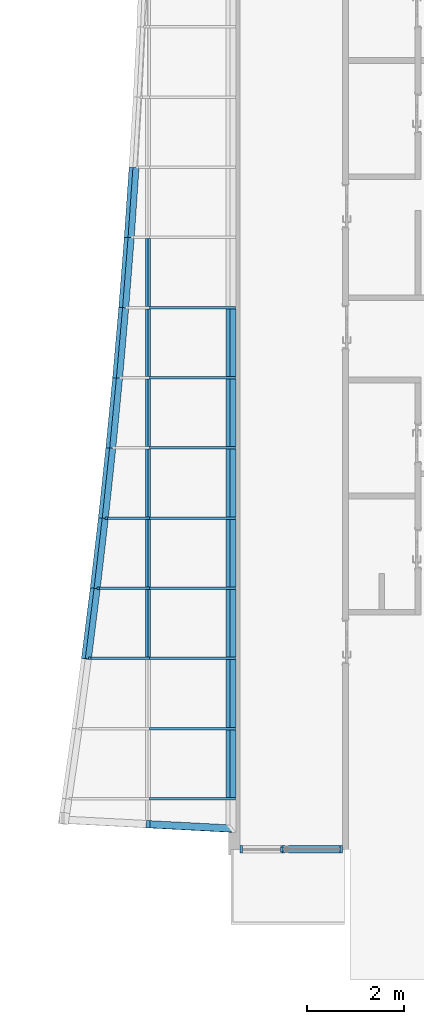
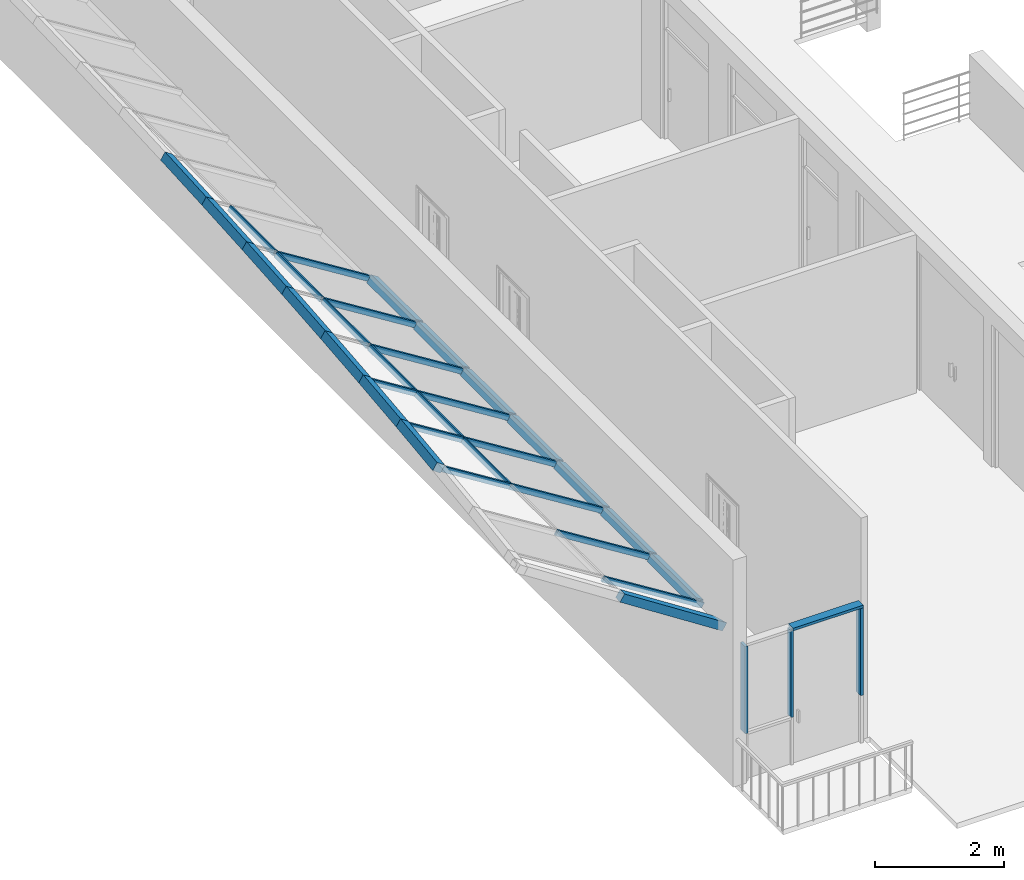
# One storey, part 2 of 33: 36 members, 2 elements without a shape of their own.
"""IFC2X3 building model written with IfcOpenShell, lengths in millimetres."""

from ifc_helpers import new_model, entity, si_unit, converted_unit, derived_unit, direction, frame, frame_2d, origin, origin_2d_with_axis, place, context, subcontext, project, spatial, polyline, rectangle, extrude, clip, halfspace, bounded_halfspace, source, transform, mapped, material, type_object, type_shapes, element, aggregate, save


model = new_model("IFC2X3")

# Units and contexts
model_context = context("Model", 3, precision=0.01, world=origin(), true_north=direction((6.12303176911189e-17, 1.0)))
body_context = subcontext(model_context, "Body", "Model", "MODEL_VIEW")
ifc_project = project(units=[si_unit("LENGTHUNIT", "METRE", prefix="MILLI"), si_unit("AREAUNIT", "SQUARE_METRE"), si_unit("VOLUMEUNIT", "CUBIC_METRE"), converted_unit("PLANEANGLEUNIT", "DEGREE", entity("IfcRatioMeasure", 0.0174532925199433), si_unit("PLANEANGLEUNIT", "RADIAN"), dimensions=[0, 0, 0, 0, 0, 0, 0]), si_unit("MASSUNIT", "GRAM", prefix="KILO"), derived_unit("MASSDENSITYUNIT", [(si_unit("MASSUNIT", "GRAM", prefix="KILO"), 1), (si_unit("LENGTHUNIT", "METRE"), -3)]), si_unit("TIMEUNIT", "SECOND"), si_unit("FREQUENCYUNIT", "HERTZ"), si_unit("THERMODYNAMICTEMPERATUREUNIT", "DEGREE_CELSIUS"), derived_unit("THERMALTRANSMITTANCEUNIT", [(si_unit("MASSUNIT", "GRAM", prefix="KILO"), 1), (si_unit("THERMODYNAMICTEMPERATUREUNIT", "KELVIN"), -1), (si_unit("TIMEUNIT", "SECOND"), -3)]), derived_unit("VOLUMETRICFLOWRATEUNIT", [(si_unit("LENGTHUNIT", "METRE"), 3), (si_unit("TIMEUNIT", "SECOND"), -1)]), si_unit("ELECTRICCURRENTUNIT", "AMPERE"), si_unit("ELECTRICVOLTAGEUNIT", "VOLT"), si_unit("POWERUNIT", "WATT"), si_unit("FORCEUNIT", "NEWTON", prefix="KILO"), si_unit("ILLUMINANCEUNIT", "LUX"), si_unit("LUMINOUSFLUXUNIT", "LUMEN"), si_unit("LUMINOUSINTENSITYUNIT", "CANDELA"), derived_unit("USERDEFINED", [(si_unit("MASSUNIT", "GRAM", prefix="KILO"), -1), (si_unit("LENGTHUNIT", "METRE"), -2), (si_unit("TIMEUNIT", "SECOND"), 3), (si_unit("LUMINOUSFLUXUNIT", "LUMEN"), 1)]), derived_unit("LINEARVELOCITYUNIT", [(si_unit("LENGTHUNIT", "METRE"), 1), (si_unit("TIMEUNIT", "SECOND"), -1)]), si_unit("PRESSUREUNIT", "PASCAL"), derived_unit("USERDEFINED", [(si_unit("LENGTHUNIT", "METRE"), -2), (si_unit("MASSUNIT", "GRAM", prefix="KILO"), 1), (si_unit("TIMEUNIT", "SECOND"), -2)])], contexts=[model_context])

# Site, building, storey
site_placement = place(None, origin())
site = spatial("IfcSite", under=ifc_project, at=site_placement, Name="表面", CompositionType="ELEMENT")
building_placement = place(site_placement, origin())
building = spatial("IfcBuilding", under=site, at=building_placement, CompositionType="ELEMENT")
storey_placement = place(building_placement, frame((0.0, 0.0, 6000.0)))
storey = spatial("IfcBuildingStorey", under=building, at=storey_placement, Name="3F", CompositionType="ELEMENT", Elevation=6000.00000000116)

# Curtain wall, members
curtain_wall_type_1 = type_object("IfcCurtainWallType", Name="幕墙系统:1450 x 2100mm", PredefinedType="NOTDEFINED")
curtain_wall_1_placement = place(storey_placement, frame((0.0, 0.0, -6000.0)))
curtain_wall_1 = element("IfcCurtainWall", 1, at=curtain_wall_1_placement, inside=storey, type_object=curtain_wall_type_1, Name="幕墙系统:1450 x 2100mm", ObjectType="幕墙系统:1450 x 2100mm")
ifc_material_1 = material(Name="金属 - 铝")
member_type_1 = type_object("IfcMemberType", Name="50 x 100mm", PredefinedType="MEMBER")
shared_shape_1 = source(origin(), body_context, "Body", "SweptSolid", [
    extrude(rectangle(XDim=100.0, YDim=50.0, at=origin_2d_with_axis()), frame((0.0, 0.0, -1400.0), z_axis=(0.0, 0.0, 1.0), x_axis=(0.0, -1.0, 0.0)), (0.0, 0.0, 1.0), 1400.0),
])
type_shapes(member_type_1, [shared_shape_1])
placement = place(building_placement, frame((0.0, 0.0, 9000.0)))
member_1_placement = place(placement, frame((-16211.1509145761, -16795.8979069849, 826.048296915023), z_axis=(0.0, 1.0, 0.0), x_axis=(-0.848048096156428, 0.0, 0.529919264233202)))
member_1 = element("IfcMember", 2, at=member_1_placement, type_object=member_type_1, material=ifc_material_1, Name="矩形竖梃:50 x 100mm", ObjectType="50 x 100mm", context=body_context, shape_type="MappedRepresentation", body=[
    mapped(shared_shape_1, transform((0.0, 0.0, 0.0), scale=1.0)),
])
member_2_placement = place(placement, frame((-16211.1509145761, -18245.8979069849, 826.048296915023), z_axis=(0.0, 1.0, 0.0), x_axis=(-0.848048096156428, 0.0, 0.529919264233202)))
member_2 = element("IfcMember", 3, at=member_2_placement, type_object=member_type_1, material=ifc_material_1, Name="矩形竖梃:50 x 100mm", ObjectType="50 x 100mm", context=body_context, shape_type="MappedRepresentation", body=[
    mapped(shared_shape_1, transform((0.0, 0.0, 0.0), scale=1.0)),
])
member_3_placement = place(placement, frame((-16211.1509145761, -19695.8979069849, 826.048296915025), z_axis=(0.0, 1.0, 0.0), x_axis=(-0.848048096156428, 0.0, 0.529919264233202)))
member_3 = element("IfcMember", 4, at=member_3_placement, type_object=member_type_1, material=ifc_material_1, Name="矩形竖梃:50 x 100mm", ObjectType="50 x 100mm", context=body_context, shape_type="MappedRepresentation", body=[
    mapped(shared_shape_1, transform((0.0, 0.0, 0.0), scale=1.0)),
])
member_4_placement = place(placement, frame((-16211.1509145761, -21145.8979069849, 826.048296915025), z_axis=(0.0, 1.0, 0.0), x_axis=(-0.848048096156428, 0.0, 0.529919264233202)))
member_4 = element("IfcMember", 5, at=member_4_placement, type_object=member_type_1, material=ifc_material_1, Name="矩形竖梃:50 x 100mm", ObjectType="50 x 100mm", context=body_context, shape_type="MappedRepresentation", body=[
    mapped(shared_shape_1, transform((0.0, 0.0, 0.0), scale=1.0)),
])
member_5_placement = place(placement, frame((-16211.1509145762, -22595.8979069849, 826.048296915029), z_axis=(0.0, 1.0, 0.0), x_axis=(-0.848048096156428, 0.0, 0.529919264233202)))
member_5 = element("IfcMember", 6, at=member_5_placement, type_object=member_type_1, material=ifc_material_1, Name="矩形竖梃:50 x 100mm", ObjectType="50 x 100mm", context=body_context, shape_type="MappedRepresentation", body=[
    mapped(shared_shape_1, transform((0.0, 0.0, 0.0), scale=1.0)),
])
member_6_placement = place(placement, frame((-16211.1509145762, -24045.8979069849, 826.048296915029), z_axis=(0.0, 1.0, 0.0), x_axis=(-0.848048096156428, 0.0, 0.529919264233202)))
member_6 = element("IfcMember", 7, at=member_6_placement, type_object=member_type_1, material=ifc_material_1, Name="矩形竖梃:50 x 100mm", ObjectType="50 x 100mm", context=body_context, shape_type="MappedRepresentation", body=[
    mapped(shared_shape_1, transform((0.0, 0.0, 0.0), scale=1.0)),
])
member_type_2 = type_object("IfcMemberType", Name="50 x 100mm", PredefinedType="MEMBER")
shared_shape_2 = source(origin(), body_context, "Body", "SweptSolid", [
    extrude(rectangle(XDim=100.0, YDim=50.0, at=origin_2d_with_axis()), frame((0.0, 0.0, -2100.0), z_axis=(0.0, 0.0, 1.0), x_axis=(0.0, -1.0, 0.0)), (0.0, 0.0, 1.0), 2100.0),
])
type_shapes(member_type_2, [shared_shape_2])
member_7_placement = place(storey_placement, frame((-16211.1509145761, -18220.8979069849, 3826.04829691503), z_axis=(-0.848048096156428, 0.0, 0.529919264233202), x_axis=(0.0, -1.0, 0.0)))
member_7 = element("IfcMember", 8, at=member_7_placement, type_object=member_type_2, material=ifc_material_1, Name="矩形竖梃:50 x 100mm", ObjectType="50 x 100mm", context=body_context, shape_type="MappedRepresentation", body=[
    mapped(shared_shape_2, transform((0.0, 0.0, 0.0), scale=1.0)),
])
member_8_placement = place(storey_placement, frame((-16211.1509145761, -19670.8979069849, 3826.04829691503), z_axis=(-0.848048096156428, 0.0, 0.529919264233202), x_axis=(0.0, -1.0, 0.0)))
member_8 = element("IfcMember", 9, at=member_8_placement, type_object=member_type_2, material=ifc_material_1, Name="矩形竖梃:50 x 100mm", ObjectType="50 x 100mm", context=body_context, shape_type="MappedRepresentation", body=[
    mapped(shared_shape_2, transform((0.0, 0.0, 0.0), scale=1.0)),
])
member_9_placement = place(storey_placement, frame((-16211.1509145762, -21120.8979069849, 3826.04829691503), z_axis=(-0.848048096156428, 0.0, 0.529919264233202), x_axis=(0.0, -1.0, 0.0)))
member_9 = element("IfcMember", 10, at=member_9_placement, type_object=member_type_2, material=ifc_material_1, Name="矩形竖梃:50 x 100mm", ObjectType="50 x 100mm", context=body_context, shape_type="MappedRepresentation", body=[
    mapped(shared_shape_2, transform((0.0, 0.0, 0.0), scale=1.0)),
])
member_10_placement = place(storey_placement, frame((-16211.1509145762, -22570.8979069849, 3826.04829691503), z_axis=(-0.848048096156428, 0.0, 0.529919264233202), x_axis=(0.0, -1.0, 0.0)))
member_10 = element("IfcMember", 11, at=member_10_placement, type_object=member_type_2, material=ifc_material_1, Name="矩形竖梃:50 x 100mm", ObjectType="50 x 100mm", context=body_context, shape_type="MappedRepresentation", body=[
    mapped(shared_shape_2, transform((0.0, 0.0, 0.0), scale=1.0)),
])
member_11_placement = place(storey_placement, frame((-16211.1509145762, -24020.8979069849, 3826.04829691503), z_axis=(-0.848048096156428, 0.0, 0.529919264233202), x_axis=(0.0, -1.0, 0.0)))
member_11 = element("IfcMember", 12, at=member_11_placement, type_object=member_type_2, material=ifc_material_1, Name="矩形竖梃:50 x 100mm", ObjectType="50 x 100mm", context=body_context, shape_type="MappedRepresentation", body=[
    mapped(shared_shape_2, transform((0.0, 0.0, 0.0), scale=1.0)),
])
member_12_placement = place(storey_placement, frame((-16211.1509145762, -25470.8979069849, 3826.04829691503), z_axis=(-0.848048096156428, 0.0, 0.529919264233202), x_axis=(0.0, -1.0, 0.0)))
member_12 = element("IfcMember", 13, at=member_12_placement, type_object=member_type_2, material=ifc_material_1, Name="矩形竖梃:50 x 100mm", ObjectType="50 x 100mm", context=body_context, shape_type="MappedRepresentation", body=[
    mapped(shared_shape_2, transform((0.0, 0.0, 0.0), scale=1.0)),
])
member_13_placement = place(storey_placement, frame((-16211.1509145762, -26920.8979069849, 3826.04829691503), z_axis=(-0.848048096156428, 0.0, 0.529919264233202), x_axis=(0.0, -1.0, 0.0)))
member_13 = element("IfcMember", 14, at=member_13_placement, type_object=member_type_2, material=ifc_material_1, Name="矩形竖梃:50 x 100mm", ObjectType="50 x 100mm", context=body_context, shape_type="MappedRepresentation", body=[
    mapped(shared_shape_2, transform((0.0, 0.0, 0.0), scale=1.0)),
])
member_14_placement = place(storey_placement, frame((-16211.1509145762, -28370.8979069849, 3826.04829691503), z_axis=(-0.848048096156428, 0.0, 0.529919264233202), x_axis=(0.0, -1.0, 0.0)))
member_14 = element("IfcMember", 15, at=member_14_placement, type_object=member_type_2, material=ifc_material_1, Name="矩形竖梃:50 x 100mm", ObjectType="50 x 100mm", context=body_context, shape_type="MappedRepresentation", body=[
    mapped(shared_shape_2, transform((0.0, 0.0, 0.0), scale=1.0)),
])
ifc_material_2 = material(Name="木质 - 木材")
member_type_3 = type_object("IfcMemberType", Name="200 x 150mm", PredefinedType="MEMBER")
shared_shape_3 = source(origin(), body_context, "Body", "SweptSolid", [
    extrude(rectangle(XDim=150.0, YDim=150.0, at=origin_2d_with_axis()), frame((-75.0, 0.0, -1400.0), z_axis=(0.0, 0.0, 1.0), x_axis=(0.0, -1.0, 0.0)), (0.0, 0.0, 1.0), 1400.0),
])
type_shapes(member_type_3, [shared_shape_3])
member_15_placement = place(storey_placement, frame((-14430.2499126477, -19645.8979069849, 2713.21784202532), z_axis=(0.0, -1.0, 0.0), x_axis=(0.848048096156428, 0.0, -0.529919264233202)))
member_15 = element("IfcMember", 16, at=member_15_placement, type_object=member_type_3, material=ifc_material_2, Name="矩形竖梃:200 x 150mm", ObjectType="200 x 150mm", context=body_context, shape_type="MappedRepresentation", body=[
    mapped(shared_shape_3, transform((0.0, 0.0, 0.0), scale=1.0)),
])
member_16_placement = place(storey_placement, frame((-14430.2499126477, -21095.8979069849, 2713.21784202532), z_axis=(0.0, -1.0, 0.0), x_axis=(0.848048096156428, 0.0, -0.529919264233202)))
member_16 = element("IfcMember", 17, at=member_16_placement, type_object=member_type_3, material=ifc_material_2, Name="矩形竖梃:200 x 150mm", ObjectType="200 x 150mm", context=body_context, shape_type="MappedRepresentation", body=[
    mapped(shared_shape_3, transform((0.0, 0.0, 0.0), scale=1.0)),
])
member_17_placement = place(storey_placement, frame((-14430.2499126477, -22545.8979069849, 2713.21784202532), z_axis=(0.0, -1.0, 0.0), x_axis=(0.848048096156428, 0.0, -0.529919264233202)))
member_17 = element("IfcMember", 18, at=member_17_placement, type_object=member_type_3, material=ifc_material_2, Name="矩形竖梃:200 x 150mm", ObjectType="200 x 150mm", context=body_context, shape_type="MappedRepresentation", body=[
    mapped(shared_shape_3, transform((0.0, 0.0, 0.0), scale=1.0)),
])
member_18_placement = place(storey_placement, frame((-14430.2499126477, -23995.8979069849, 2713.21784202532), z_axis=(0.0, -1.0, 0.0), x_axis=(0.848048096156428, 0.0, -0.529919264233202)))
member_18 = element("IfcMember", 19, at=member_18_placement, type_object=member_type_3, material=ifc_material_2, Name="矩形竖梃:200 x 150mm", ObjectType="200 x 150mm", context=body_context, shape_type="MappedRepresentation", body=[
    mapped(shared_shape_3, transform((0.0, 0.0, 0.0), scale=1.0)),
])
member_19_placement = place(storey_placement, frame((-14430.2499126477, -25445.8979069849, 2713.21784202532), z_axis=(0.0, -1.0, 0.0), x_axis=(0.848048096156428, 0.0, -0.529919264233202)))
member_19 = element("IfcMember", 20, at=member_19_placement, type_object=member_type_3, material=ifc_material_2, Name="矩形竖梃:200 x 150mm", ObjectType="200 x 150mm", context=body_context, shape_type="MappedRepresentation", body=[
    mapped(shared_shape_3, transform((0.0, 0.0, 0.0), scale=1.0)),
])
member_20_placement = place(storey_placement, frame((-14430.2499126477, -26895.8979069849, 2713.21784202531), z_axis=(0.0, -1.0, 0.0), x_axis=(0.848048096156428, 0.0, -0.529919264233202)))
member_20 = element("IfcMember", 21, at=member_20_placement, type_object=member_type_3, material=ifc_material_2, Name="矩形竖梃:200 x 150mm", ObjectType="200 x 150mm", context=body_context, shape_type="MappedRepresentation", body=[
    mapped(shared_shape_3, transform((0.0, 0.0, 0.0), scale=1.0)),
])
member_21_placement = place(storey_placement, frame((-14430.2499126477, -28345.8979069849, 2713.21784202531), z_axis=(0.0, -1.0, 0.0), x_axis=(0.848048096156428, 0.0, -0.529919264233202)))
member_21 = element("IfcMember", 22, at=member_21_placement, type_object=member_type_3, material=ifc_material_2, Name="矩形竖梃:200 x 150mm", ObjectType="200 x 150mm", context=body_context, shape_type="MappedRepresentation", body=[
    mapped(shared_shape_3, transform((0.0, 0.0, 0.0), scale=1.0)),
])

curtain_wall_type_2 = type_object("IfcCurtainWallType", Name="幕墙:幕墙 2", PredefinedType="NOTDEFINED")
curtain_wall_2_placement = place(storey_placement, frame((0.0, 0.0, -6000.0)))
curtain_wall_2 = element("IfcCurtainWall", 23, at=curtain_wall_2_placement, inside=storey, type_object=curtain_wall_type_2, Name="幕墙:幕墙 2", ObjectType="幕墙:幕墙 2")
member_type_4 = type_object("IfcMemberType", Name="50 x 150mm", PredefinedType="MEMBER")
shared_shape_4 = source(origin(), body_context, "Body", "SweptSolid", [
    extrude(rectangle(XDim=150.0, YDim=50.0, at=origin_2d_with_axis()), frame((-25.0, 0.0, -1650.0), z_axis=(0.0, 0.0, 1.0), x_axis=(0.0, -1.0, 0.0)), (0.0, 0.0, 1.0), 1650.0),
])
type_shapes(member_type_4, [shared_shape_4])
member_22_placement = place(storey_placement, frame((-14310.2499126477, -29416.868426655, 2550.0), z_axis=(0.0, 0.0, 1.0), x_axis=(-1.0, 0.0, 0.0)))
member_22 = element("IfcMember", 24, at=member_22_placement, type_object=member_type_4, material=ifc_material_1, Name="矩形竖梃:50 x 150mm", ObjectType="50 x 150mm", context=body_context, shape_type="MappedRepresentation", body=[
    mapped(shared_shape_4, transform((0.0, 0.0, 0.0), scale=1.0)),
])
member_type_5 = type_object("IfcMemberType", Name="50 x 150mm", PredefinedType="MEMBER")
shared_shape_5 = source(origin(), body_context, "Body", "SweptSolid", [
    extrude(rectangle(XDim=150.0, YDim=50.0, at=origin_2d_with_axis()), frame((-25.0, 0.0, -1650.0), z_axis=(0.0, 0.0, 1.0), x_axis=(0.0, -1.0, 0.0)), (0.0, 0.0, 1.0), 1650.0),
])
type_shapes(member_type_5, [shared_shape_5])
member_23_placement = place(storey_placement, frame((-12190.2499126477, -29416.868426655, 900.0), z_axis=(0.0, 0.0, -1.0), x_axis=(1.0, 0.0, 0.0)))
member_23 = element("IfcMember", 25, at=member_23_placement, type_object=member_type_5, material=ifc_material_1, Name="矩形竖梃:50 x 150mm", ObjectType="50 x 150mm", context=body_context, shape_type="MappedRepresentation", body=[
    mapped(shared_shape_5, transform((0.0, 0.0, 0.0), scale=1.0)),
])
member_type_6 = type_object("IfcMemberType", Name="50 x 100mm", PredefinedType="MEMBER")
shared_shape_6 = source(origin(), body_context, "Body", "SweptSolid", [
    extrude(rectangle(XDim=100.0, YDim=50.0, at=origin_2d_with_axis()), frame((0.0, 0.0, -1650.0), z_axis=(0.0, 0.0, 1.0), x_axis=(0.0, -1.0, 0.0)), (0.0, 0.0, 1.0), 1650.0),
])
type_shapes(member_type_6, [shared_shape_6])
member_24_placement = place(storey_placement, frame((-13450.2499126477, -29416.868426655, 900.0), z_axis=(0.0, 0.0, -1.0), x_axis=(1.0, 0.0, 0.0)))
member_24 = element("IfcMember", 26, at=member_24_placement, type_object=member_type_6, material=ifc_material_1, Name="矩形竖梃:50 x 100mm", ObjectType="50 x 100mm", context=body_context, shape_type="MappedRepresentation", body=[
    mapped(shared_shape_6, transform((0.0, 0.0, 0.0), scale=1.0)),
])
member_type_7 = type_object("IfcMemberType", Name="50 x 150mm", PredefinedType="MEMBER")
shared_shape_7 = source(origin(), body_context, "Body", "SweptSolid", [
    extrude(rectangle(XDim=150.0, YDim=50.0, at=origin_2d_with_axis()), frame((-25.0, 0.0, -1260.0), z_axis=(0.0, 0.0, 1.0), x_axis=(0.0, -1.0, 0.0)), (0.0, 0.0, 1.0), 1260.0),
])
type_shapes(member_type_7, [shared_shape_7])
member_25_placement = place(storey_placement, frame((-12190.2499126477, -29416.868426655, 2600.0), z_axis=(1.0, 0.0, 0.0), x_axis=(0.0, 0.0, 1.0)))
member_25 = element("IfcMember", 27, at=member_25_placement, type_object=member_type_7, material=ifc_material_1, Name="矩形竖梃:50 x 150mm", ObjectType="50 x 150mm", context=body_context, shape_type="MappedRepresentation", body=[
    mapped(shared_shape_7, transform((0.0, 0.0, 0.0), scale=1.0)),
])
aggregate(curtain_wall_2, [member_25, member_22, member_23, member_24])

# Member
member_type_8 = type_object("IfcMemberType", Name="200 x 150mm", PredefinedType="MEMBER")
shared_shape_8 = source(origin(), body_context, "Body", "Clipping", [
    clip(clip(extrude(rectangle(XDim=150.0, YDim=150.0, at=frame_2d((-7.105427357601e-15, 1.4210854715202e-14), x_axis=(1.0, 0.0))), frame((-75.0, 0.0, -1455.61011622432), z_axis=(0.0, 0.0, 1.0), x_axis=(0.0, -1.0, 0.0)), (0.0, 0.0, 1.0), 1456.42395206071), halfspace(frame((0.0, 304.8, -1454.7961641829), z_axis=(0.00542626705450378, 0.0, -0.999985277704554), x_axis=(0.999985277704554, 0.0, 0.00542626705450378)), False)), halfspace(frame((0.0, 304.8, 0.0), z_axis=(0.00542549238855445, 0.0, 0.99998528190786), x_axis=(0.99998528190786, 0.0, -0.00542549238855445)), False)),
])
type_shapes(member_type_8, [shared_shape_8])
member_26_placement = place(placement, frame((-16562.0482223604, -15320.8979069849, 1045.31327021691), z_axis=(0.0688055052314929, 0.99670320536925, -0.0429944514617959), x_axis=(-0.845252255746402, 0.0811339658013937, 0.528172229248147)))
member_26 = element("IfcMember", 28, at=member_26_placement, type_object=member_type_8, material=ifc_material_2, Name="矩形竖梃:200 x 150mm", ObjectType="200 x 150mm", context=body_context, shape_type="MappedRepresentation", body=[
    mapped(shared_shape_8, transform((0.0, 0.0, 0.0), scale=1.0)),
])

member_type_9 = type_object("IfcMemberType", Name="200 x 150mm", PredefinedType="MEMBER")
shared_shape_9 = source(origin(), body_context, "Body", "Clipping", [
    clip(clip(extrude(rectangle(XDim=150.0, YDim=150.0, at=frame_2d((-2.8421709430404e-14, 0.0), x_axis=(1.0, 0.0))), frame((-75.0, 0.0, -1456.98239251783), z_axis=(0.0, 0.0, 1.0), x_axis=(0.0, -1.0, 0.0)), (0.0, 0.0, 1.0), 1457.79634455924), halfspace(frame((0.0, 304.8, -1456.16830769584), z_axis=(0.00542715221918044, 0.0, -0.999985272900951), x_axis=(0.999985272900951, 0.0, 0.00542715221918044)), False)), halfspace(frame((0.0, 304.8, 0.0), z_axis=(0.00542626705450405, 0.0, 0.999985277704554), x_axis=(0.999985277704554, 0.0, -0.00542626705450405)), False)),
])
type_shapes(member_type_9, [shared_shape_9])
member_27_placement = place(placement, frame((-16662.1462074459, -16770.8979069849, 1107.86143328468), z_axis=(0.0779744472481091, 0.995764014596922, -0.0487238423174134), x_axis=(-0.844455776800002, 0.091945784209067, 0.5276745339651)))
member_27 = element("IfcMember", 29, at=member_27_placement, type_object=member_type_9, material=ifc_material_2, Name="矩形竖梃:200 x 150mm", ObjectType="200 x 150mm", context=body_context, shape_type="MappedRepresentation", body=[
    mapped(shared_shape_9, transform((0.0, 0.0, 0.0), scale=1.0)),
])

member_type_10 = type_object("IfcMemberType", Name="200 x 150mm", PredefinedType="MEMBER")
shared_shape_10 = source(origin(), body_context, "Body", "Clipping", [
    clip(clip(extrude(rectangle(XDim=150.0, YDim=150.0, at=frame_2d((2.8421709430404e-14, 1.4210854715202e-14), x_axis=(1.0, 0.0))), frame((-75.0, 0.0, -1458.52939126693), z_axis=(0.0, 0.0, 1.0), x_axis=(0.0, -1.0, 0.0)), (0.0, 0.0, 1.0), 1459.34347608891), halfspace(frame((0.0, 304.8, -1457.71515668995), z_axis=(0.00542815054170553, 0.0, -0.999985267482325), x_axis=(0.999985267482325, 0.0, 0.00542815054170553)), False)), halfspace(frame((0.0, 304.8, 0.0), z_axis=(0.00542715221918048, 0.0, 0.999985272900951), x_axis=(0.999985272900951, 0.0, -0.00542715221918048)), False)),
])
type_shapes(member_type_10, [shared_shape_10])
member_28_placement = place(placement, frame((-16775.6901263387, -18220.8979069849, 1178.81154829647), z_axis=(0.0871356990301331, 0.994707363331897, -0.0544484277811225), x_axis=(-0.843559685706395, 0.102748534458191, 0.527114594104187)))
member_28 = element("IfcMember", 30, at=member_28_placement, type_object=member_type_10, material=ifc_material_2, Name="矩形竖梃:200 x 150mm", ObjectType="200 x 150mm", context=body_context, shape_type="MappedRepresentation", body=[
    mapped(shared_shape_10, transform((0.0, 0.0, 0.0), scale=1.0)),
])

member_type_11 = type_object("IfcMemberType", Name="200 x 150mm", PredefinedType="MEMBER")
shared_shape_11 = source(origin(), body_context, "Body", "Clipping", [
    clip(clip(extrude(rectangle(XDim=150.0, YDim=150.0, at=frame_2d((-2.8421709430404e-14, 1.4210854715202e-14), x_axis=(1.0, 0.0))), frame((-75.0, 0.0, -1460.25215811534), z_axis=(0.0, 0.0, 1.0), x_axis=(0.0, -1.0, 0.0)), (0.0, 0.0, 1.0), 1461.06639269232), halfspace(frame((0.0, 304.8, -1459.43775636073), z_axis=(0.00542926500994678, 0.0, -0.999985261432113), x_axis=(0.999985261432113, 0.0, 0.00542926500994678)), False)), halfspace(frame((0.0, 304.8, 0.0), z_axis=(0.00542815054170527, 0.0, 0.999985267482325), x_axis=(0.999985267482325, 0.0, -0.00542815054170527)), False)),
])
type_shapes(member_type_11, [shared_shape_11])
member_29_placement = place(placement, frame((-16902.7091555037, -19670.8979069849, 1258.18184673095), z_axis=(0.096288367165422, 0.993533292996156, -0.0601676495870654), x_axis=(-0.842564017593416, 0.113541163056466, 0.526492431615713)))
member_29 = element("IfcMember", 31, at=member_29_placement, type_object=member_type_11, material=ifc_material_2, Name="矩形竖梃:200 x 150mm", ObjectType="200 x 150mm", context=body_context, shape_type="MappedRepresentation", body=[
    mapped(shared_shape_11, transform((0.0, 0.0, 0.0), scale=1.0)),
])

member_type_12 = type_object("IfcMemberType", Name="200 x 150mm", PredefinedType="MEMBER")
shared_shape_12 = source(origin(), body_context, "Body", "Clipping", [
    clip(clip(extrude(rectangle(XDim=150.0, YDim=150.0, at=frame_2d((-7.105427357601e-15, 1.4210854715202e-14), x_axis=(1.0, 0.0))), frame((-75.0, 0.0, -1462.15186292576), z_axis=(0.0, 0.0, 1.0), x_axis=(0.0, -1.0, 0.0)), (0.0, 0.0, 1.0), 1462.96626468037), halfspace(frame((0.0, 304.8, -1461.33727606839), z_axis=(0.00543049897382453, 0.0, -0.999985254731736), x_axis=(0.999985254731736, 0.0, 0.00543049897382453)), False)), halfspace(frame((0.0, 304.8, 0.0), z_axis=(0.00542926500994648, 0.0, 0.999985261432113), x_axis=(0.999985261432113, 0.0, -0.00542926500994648)), False)),
])
type_shapes(member_type_12, [shared_shape_12])
member_30_placement = place(placement, frame((-17043.2360340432, -21120.8979069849, 1345.99278624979), z_axis=(0.105431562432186, 0.992241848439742, -0.0658809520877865), x_axis=(-0.841468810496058, 0.124322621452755, 0.52580807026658)))
member_30 = element("IfcMember", 32, at=member_30_placement, type_object=member_type_12, material=ifc_material_2, Name="矩形竖梃:200 x 150mm", ObjectType="200 x 150mm", context=body_context, shape_type="MappedRepresentation", body=[
    mapped(shared_shape_12, transform((0.0, 0.0, 0.0), scale=1.0)),
])

member_type_13 = type_object("IfcMemberType", Name="200 x 150mm", PredefinedType="MEMBER")
shared_shape_13 = source(origin(), body_context, "Body", "Clipping", [
    clip(clip(extrude(rectangle(XDim=150.0, YDim=150.0, at=frame_2d((7.105427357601e-15, 1.4210854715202e-14), x_axis=(1.0, 0.0))), frame((-75.0, 0.0, -1464.22980238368), z_axis=(0.0, 0.0, 1.0), x_axis=(0.0, -1.0, 0.0)), (0.0, 0.0, 1.0), 1465.04438924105), halfspace(frame((0.0, 304.799999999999, -1463.41501191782), z_axis=(0.00543185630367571, 0.0, -0.999985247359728), x_axis=(0.999985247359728, 0.0, 0.00543185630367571)), False)), halfspace(frame((0.0, 304.8, 0.0), z_axis=(0.0054304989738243, 0.0, 0.999985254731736), x_axis=(0.999985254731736, 0.0, -0.0054304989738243)), False)),
])
type_shapes(member_type_13, [shared_shape_13])
member_31_placement = place(placement, frame((-17197.3071062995, -22570.8979069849, 1442.26707731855), z_axis=(0.114564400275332, 0.990833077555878, -0.0715877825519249), x_axis=(-0.840274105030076, 0.1350918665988, 0.52506153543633)))
member_31 = element("IfcMember", 33, at=member_31_placement, type_object=member_type_13, material=ifc_material_2, Name="矩形竖梃:200 x 150mm", ObjectType="200 x 150mm", context=body_context, shape_type="MappedRepresentation", body=[
    mapped(shared_shape_13, transform((0.0, 0.0, 0.0), scale=1.0)),
])

member_type_14 = type_object("IfcMemberType", Name="200 x 150mm", PredefinedType="MEMBER")
shared_shape_14 = source(origin(), body_context, "Body", "Clipping", [
    clip(clip(extrude(rectangle(XDim=150.0, YDim=150.0, at=frame_2d((-4.2632564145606e-14, 1.4210854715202e-14), x_axis=(1.0, 0.0))), frame((-75.0, 0.0, -1466.48740300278), z_axis=(0.0, 0.0, 1.0), x_axis=(0.0, -1.0, 0.0)), (0.0, 0.0, 1.0), 1467.30219346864), halfspace(frame((0.0, 304.799999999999, -1465.67238970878), z_axis=(0.00543334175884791, 0.0, -0.999985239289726), x_axis=(0.999985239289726, 0.0, 0.00543334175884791)), False)), halfspace(frame((0.0, 304.8, 0.0), z_axis=(0.00543185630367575, 0.0, 0.999985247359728), x_axis=(0.999985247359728, 0.0, -0.00543185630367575)), False)),
])
type_shapes(member_type_14, [shared_shape_14])
member_32_placement = place(placement, frame((-17364.9623694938, -24020.8979069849, 1547.02971297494), z_axis=(0.123686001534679, 0.98930703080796, -0.07728759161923), x_axis=(-0.838979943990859, 0.145847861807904, 0.524252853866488)))
member_32 = element("IfcMember", 34, at=member_32_placement, type_object=member_type_14, material=ifc_material_2, Name="矩形竖梃:200 x 150mm", ObjectType="200 x 150mm", context=body_context, shape_type="MappedRepresentation", body=[
    mapped(shared_shape_14, transform((0.0, 0.0, 0.0), scale=1.0)),
])

member_type_15 = type_object("IfcMemberType", Name="200 x 150mm", PredefinedType="MEMBER")
shared_shape_15 = source(origin(), body_context, "Body", "Clipping", [
    clip(extrude(rectangle(XDim=150.0, YDim=150.0, at=frame_2d((1.27897692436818e-13, 1.4210854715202e-14), x_axis=(1.0, 0.0))), frame((-75.0, 0.0, -2102.07303900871), z_axis=(0.0, 0.0, 1.0), x_axis=(0.0, -1.0, 0.0)), (0.0, 0.0, 1.0), 2102.07303900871), halfspace(frame((0.0, -304.800000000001, -2102.07303900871), z_axis=(-0.722634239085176, 0.0, -0.691230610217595), x_axis=(-0.691230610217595, 0.0, 0.722634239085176)), False)),
])
type_shapes(member_type_15, [shared_shape_15])
member_33_placement = place(storey_placement, frame((-16211.1509145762, -28973.535360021, 3826.04829691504), z_axis=(-0.847211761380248, 0.0444004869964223, 0.529396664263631), x_axis=(-0.0376537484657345, -0.999013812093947, 0.0235286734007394)))
member_33 = element("IfcMember", 35, at=member_33_placement, type_object=member_type_15, material=ifc_material_2, Name="矩形竖梃:200 x 150mm", ObjectType="200 x 150mm", context=body_context, shape_type="MappedRepresentation", body=[
    mapped(shared_shape_15, transform((0.0, 0.0, 0.0), scale=1.0)),
])

member_type_16 = type_object("IfcMemberType", Name="50 x 100mm", PredefinedType="MEMBER")
shared_shape_16 = source(origin(), body_context, "Body", "Clipping", [
    clip(clip(extrude(rectangle(XDim=100.0, YDim=50.0, at=origin_2d_with_axis()), frame((0.0, 0.0, -1162.85408362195), z_axis=(0.0, 0.0, 1.0), x_axis=(0.0, -1.0, 0.0)), (0.0, 0.0, 1.0), 1014.87486627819), bounded_halfspace(frame((19.4566603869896, 75.0, -148.735005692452), z_axis=(-0.1350918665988, 0.0, 0.990833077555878), x_axis=(0.990833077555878, 0.0, 0.1350918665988)), False, frame((0.0, 0.0, -1162.85408362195), z_axis=(0.0, 0.0, 1.0), x_axis=(0.0, -1.0, 0.0)), polyline([(-50.0, 25.0), (-50.0, 19.4566603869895), (50.0, 19.4566603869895), (50.0, 25.0), (-50.0, 25.0)]))), bounded_halfspace(frame((-1431.35160678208, 75.0, -330.513558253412), z_axis=(-0.124322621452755, 0.0, 0.992241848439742), x_axis=(0.992241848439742, 0.0, 0.124322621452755)), False, frame((0.0, 0.0, -1162.85408362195), z_axis=(0.0, 0.0, 1.0), x_axis=(0.0, -1.0, 0.0)), polyline([(-50.0, 19.4566603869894), (-50.0, -25.0), (50.0, -25.0), (50.0, 19.4566603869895), (-50.0, 19.4566603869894)]))),
])
type_shapes(member_type_16, [shared_shape_16])
member_34_placement = place(placement, frame((-17197.3071062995, -22570.8979069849, 1442.26707731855), z_axis=(-0.848048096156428, 0.0, 0.529919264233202), x_axis=(0.0, -1.0, 0.0)))
member_34 = element("IfcMember", 36, at=member_34_placement, type_object=member_type_16, material=ifc_material_1, Name="矩形竖梃:50 x 100mm", ObjectType="50 x 100mm", context=body_context, shape_type="MappedRepresentation", body=[
    mapped(shared_shape_16, transform((0.0, 0.0, 0.0), scale=1.0)),
])

member_type_17 = type_object("IfcMemberType", Name="50 x 100mm", PredefinedType="MEMBER")
shared_shape_17 = source(origin(), body_context, "Body", "Clipping", [
    clip(clip(extrude(rectangle(XDim=100.0, YDim=50.0, at=origin_2d_with_axis()), frame((0.0, 0.0, -1360.54954919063), z_axis=(0.0, 0.0, 1.0), x_axis=(0.0, -1.0, 0.0)), (0.0, 0.0, 1.0), 1212.61387411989), bounded_halfspace(frame((21.0711013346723, 75.0, -148.514890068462), z_axis=(-0.145847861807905, 0.0, 0.98930703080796), x_axis=(0.98930703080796, 0.0, 0.145847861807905)), False, frame((0.0, 0.0, -1360.54954919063), z_axis=(0.0, 0.0, 1.0), x_axis=(0.0, -1.0, 0.0)), polyline([(-50.0, 25.0), (-50.0, 21.0711013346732), (50.0, 21.0711013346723), (50.0, 25.0), (-50.0, 25.0)]))), bounded_halfspace(frame((-1429.73622001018, 75.0, -346.320427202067), z_axis=(-0.1350918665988, 0.0, 0.990833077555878), x_axis=(0.990833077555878, 0.0, 0.1350918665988)), False, frame((0.0, 0.0, -1360.54954919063), z_axis=(0.0, 0.0, 1.0), x_axis=(0.0, -1.0, 0.0)), polyline([(-50.0, 21.0711013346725), (-50.0, -25.0), (50.0, -25.0), (50.0, 21.0711013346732), (-50.0, 21.0711013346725)]))),
])
type_shapes(member_type_17, [shared_shape_17])
member_35_placement = place(placement, frame((-17364.9623694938, -24020.8979069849, 1547.02971297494), z_axis=(-0.848048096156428, 0.0, 0.529919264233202), x_axis=(0.0, -1.0, 0.0)))
member_35 = element("IfcMember", 37, at=member_35_placement, type_object=member_type_17, material=ifc_material_1, Name="矩形竖梃:50 x 100mm", ObjectType="50 x 100mm", context=body_context, shape_type="MappedRepresentation", body=[
    mapped(shared_shape_17, transform((0.0, 0.0, 0.0), scale=1.0)),
])

member_type_18 = type_object("IfcMemberType", Name="50 x 100mm", PredefinedType="MEMBER")
shared_shape_18 = source(origin(), body_context, "Body", "Clipping", [
    clip(clip(extrude(rectangle(XDim=100.0, YDim=50.0, at=origin_2d_with_axis()), frame((0.0, 0.0, -1574.31473334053), z_axis=(0.0, 0.0, 1.0), x_axis=(0.0, -1.0, 0.0)), (0.0, 0.0, 1.0), 1426.40482070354), bounded_halfspace(frame((22.6834776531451, 75.0, -148.277186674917), z_axis=(-0.156589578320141, 0.0, 0.987663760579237), x_axis=(0.987663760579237, 0.0, 0.156589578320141)), False, frame((0.0, 0.0, -1574.31473334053), z_axis=(0.0, 0.0, 1.0), x_axis=(0.0, -1.0, 0.0)), polyline([(-50.0, 25.0), (-50.0, 22.6834776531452), (50.0, 22.6834776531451), (50.0, 25.0), (-50.0, 25.0)]))), bounded_halfspace(frame((-1428.12282072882, 75.0, -362.16123877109), z_axis=(-0.145847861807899, 0.0, 0.989307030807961), x_axis=(0.989307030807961, 0.0, 0.145847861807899)), False, frame((0.0, 0.0, -1574.31473334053), z_axis=(0.0, 0.0, 1.0), x_axis=(0.0, -1.0, 0.0)), polyline([(-50.0, 22.683477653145), (-50.0, -25.0), (50.0, -25.0), (50.0, 22.6834776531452), (-50.0, 22.683477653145)]))),
])
type_shapes(member_type_18, [shared_shape_18])
member_36_placement = place(placement, frame((-17546.2455269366, -25470.8979069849, 1660.30800207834), z_axis=(-0.848048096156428, 0.0, 0.529919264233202), x_axis=(0.0, -1.0, 0.0)))
member_36 = element("IfcMember", 38, at=member_36_placement, type_object=member_type_18, material=ifc_material_1, Name="矩形竖梃:50 x 100mm", ObjectType="50 x 100mm", context=body_context, shape_type="MappedRepresentation", body=[
    mapped(shared_shape_18, transform((0.0, 0.0, 0.0), scale=1.0)),
])

aggregate(curtain_wall_1, [member_15, member_16, member_17, member_18, member_19, member_20, member_21, member_26, member_27, member_28, member_29, member_30, member_31, member_32, member_33, member_1, member_2, member_3, member_4, member_5, member_6, member_34, member_35, member_36, member_7, member_8, member_9, member_10, member_11, member_12, member_13, member_14])

save(model, "model.ifc")
